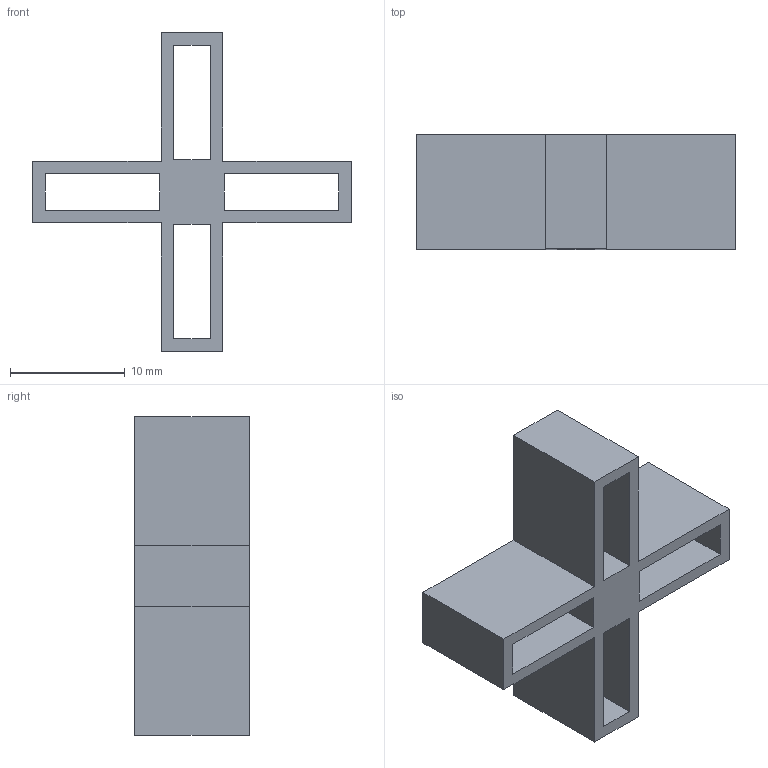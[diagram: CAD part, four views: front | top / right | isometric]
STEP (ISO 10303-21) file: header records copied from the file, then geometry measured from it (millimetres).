
FILE_DESCRIPTION(/* description */ (''),/* implementation_level */ '2;1');
FILE_NAME(/* name */ 'C:/Users/priba/Downloads/RescueMazeJoinClosed.step',/* time_stamp */ '2020-09-13T11:00:52+02:00',/* author */ (''),/* organization */ (''),/* preprocessor_version */ 'ST-DEVELOPER v18.1',/* originating_system */ 'Autodesk Translation Framework v9.3.0.1241',/* authorisation */ '');
FILE_SCHEMA (('AUTOMOTIVE_DESIGN { 1 0 10303 214 3 1 1 }'));
Length unit declared in the file: millimetre
Products named in the file (1): RescueMazeJoinClosed
Bounding box: 27.8 x 10 x 27.8 mm (x, y, z)
Volume: 1328.3 mm3; surface area: 2575.2 mm2
Topology: 1 solids, 1 shells, 43 faces, 120 edges, 80 vertices
Faces by surface type: plane 43
Entity records: 1403 total; most frequent: CARTESIAN_POINT 244, ORIENTED_EDGE 240, DIRECTION 208, LINE 120, VECTOR 120, EDGE_CURVE 120, VERTEX_POINT 80, EDGE_LOOP 52
